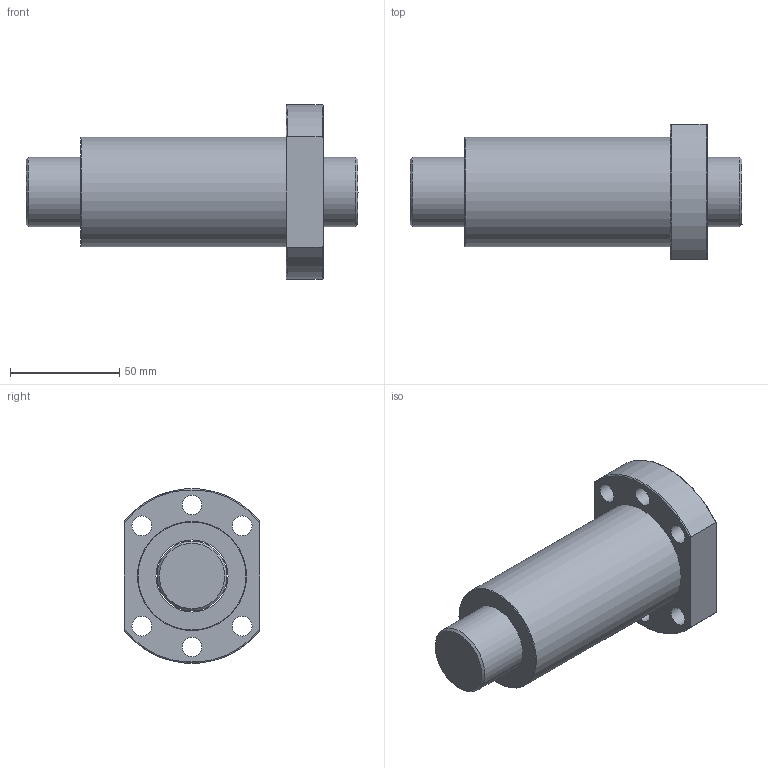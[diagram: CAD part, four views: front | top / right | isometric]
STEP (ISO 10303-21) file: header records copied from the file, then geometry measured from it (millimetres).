
FILE_DESCRIPTION(/* description */ (''),/* implementation_level */ '2;1');
FILE_NAME(/* name */ 'SFS3232-2.8',/* time_stamp */ '2007-10-26T11:17:42+08:00',/* author */ (''),/* organization */ (''),/* preprocessor_version */ 'ST-DEVELOPER v9',/* originating_system */ 'UGS - NX 3.0',/* authorisation */ '');
FILE_SCHEMA (('CONFIG_CONTROL_DESIGN'));
Length unit declared in the file: millimetre
Products named in the file (1): jaso37B0hu81
Bounding box: 152 x 62 x 79.74 mm (x, y, z)
Volume: 274805.5 mm3; surface area: 56569.6 mm2
Topology: 2 solids, 2 shells, 27 faces, 60 edges, 39 vertices
Faces by surface type: cylinder 12, plane 8, torus 5, cone 2
Full cylindrical faces by diameter (mm): 9 x6, 32 x1, 33 x1, 49.5 x1, 50 x1
Entity records: 952 total; most frequent: CARTESIAN_POINT 282, DIRECTION 122, ORIENTED_EDGE 94, AXIS2_PLACEMENT_3D 59, EDGE_LOOP 56, EDGE_CURVE 47, FACE_BOUND 40, VERTEX_POINT 39
